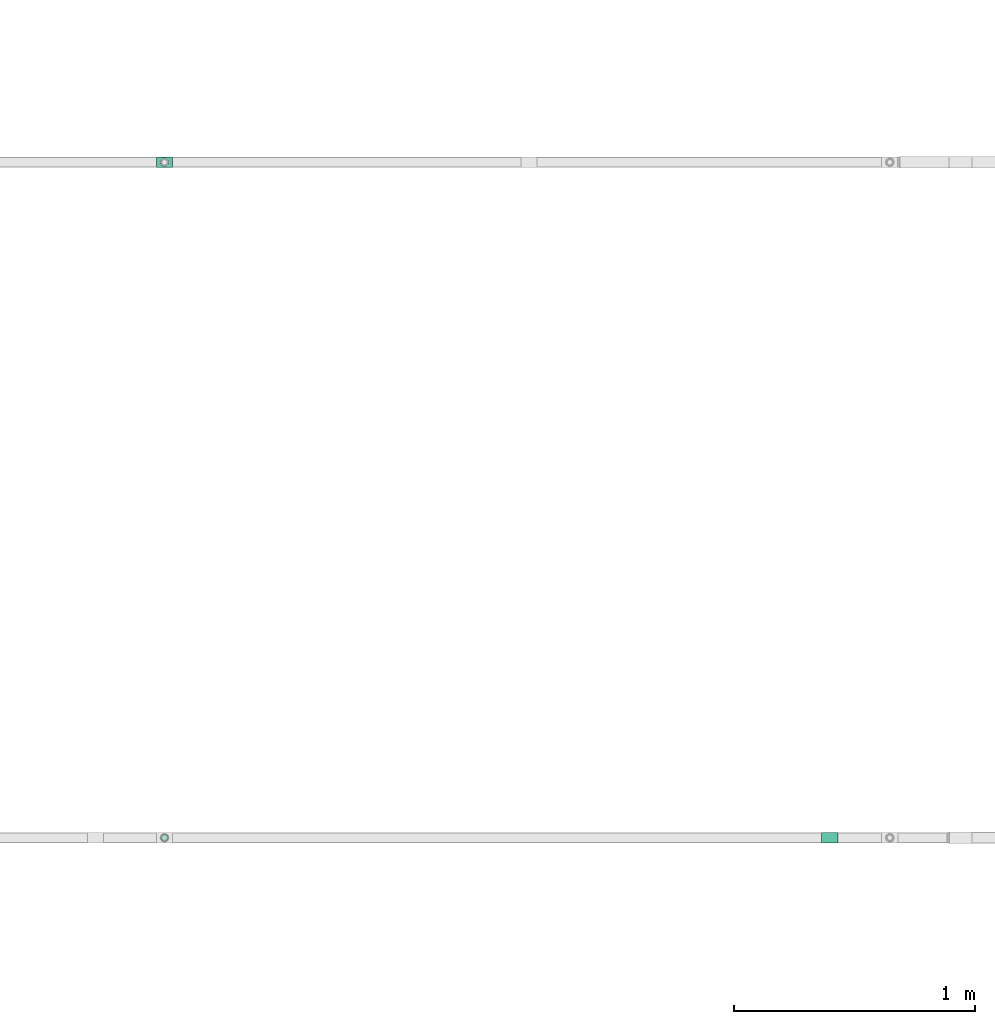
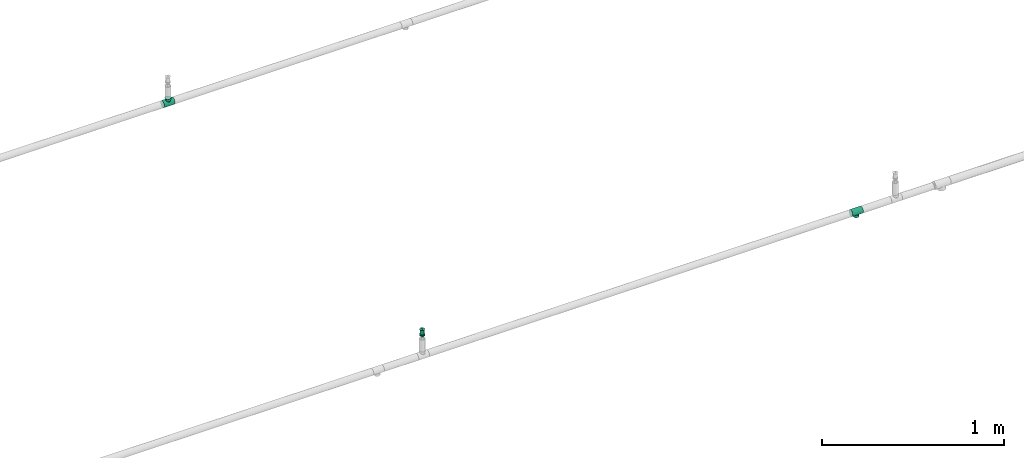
# One storey, part 63 of 94: 2 flow fittings, 1 flow terminal.
"""IFC2X3 building model written with IfcOpenShell, lengths in millimetres."""

from ifc_helpers import new_model, entity, si_unit, converted_unit, derived_unit, direction, frame, origin_with_axes, place, context, subcontext, project, spatial, open_shell, surface_model, source, transform, mapped, type_object, element, save


model = new_model("IFC2X3")

# Units and contexts
model_context = context("Model", 3, precision=0.01, world=frame((0.0, 4.29681676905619e-09, 0.0)), true_north=direction((4.01073788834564e-13, 1.0)))
plan_context = context("Plan", 3, precision=0.01, world=frame((0.0, 4.29681676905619e-09, 0.0)), true_north=direction((4.01073788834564e-13, 1.0)))
body_context = subcontext(model_context, "Body", "Model", "MODEL_VIEW")
ifc_project = project(units=[converted_unit("PLANEANGLEUNIT", "DEGREE", entity("IfcPositiveLengthMeasure", 0.0174532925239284), si_unit("PLANEANGLEUNIT", "RADIAN"), dimensions=[0, 0, 0, 0, 0, 0, 0]), si_unit("AREAUNIT", "SQUARE_METRE"), si_unit("LENGTHUNIT", "METRE", prefix="MILLI"), si_unit("MASSUNIT", "GRAM", prefix="KILO"), si_unit("POWERUNIT", "WATT"), si_unit("PRESSUREUNIT", "PASCAL"), si_unit("FORCEUNIT", "NEWTON", prefix="KILO"), si_unit("ELECTRICCURRENTUNIT", "AMPERE"), si_unit("THERMODYNAMICTEMPERATUREUNIT", "DEGREE_CELSIUS"), si_unit("TIMEUNIT", "SECOND"), si_unit("VOLUMEUNIT", "CUBIC_METRE"), derived_unit("LINEARVELOCITYUNIT", [(si_unit("LENGTHUNIT", "METRE"), 1), (si_unit("TIMEUNIT", "SECOND"), -1)]), derived_unit("VOLUMETRICFLOWRATEUNIT", [(si_unit("VOLUMEUNIT", "CUBIC_METRE"), 1), (si_unit("TIMEUNIT", "SECOND"), -1)]), derived_unit("THERMALTRANSMITTANCEUNIT", [(si_unit("POWERUNIT", "WATT"), 1), (si_unit("THERMODYNAMICTEMPERATUREUNIT", "KELVIN"), -1), (si_unit("AREAUNIT", "SQUARE_METRE"), -1)])], contexts=[model_context, plan_context])

# Site, building, storey
site_placement = place(None, frame((0.0, -4.29681676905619e-09, 0.0), z_axis=(0.0, 0.0, 1.0), x_axis=(1.0, 0.0, 0.0)))
site = spatial("IfcSite", under=ifc_project, at=site_placement, CompositionType="ELEMENT")
building_placement = place(site_placement, frame((0.0, 4.29681676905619e-09, 0.0), z_axis=(0.0, 0.0, 1.0), x_axis=(1.0, 0.0, 0.0)))
building = spatial("IfcBuilding", under=site, at=building_placement, Name="mc-building", CompositionType="ELEMENT")
storey_placement = place(building_placement, frame((0.0, 0.0, 200300.0), z_axis=(0.0, 0.0, 1.0), x_axis=(1.0, 0.0, 0.0)))
storey = spatial("IfcBuildingStorey", under=building, at=storey_placement, Name="Nivå C", CompositionType="ELEMENT", Elevation=200300.0)

# Flow fittings
pipe_fitting_type = type_object("IfcPipeFittingType", Name="magi_pipe_fe_tee_centric_90_NOR", PredefinedType="JUNCTION")
shared_shape_1 = source(origin_with_axes(), body_context, "Body", "SurfaceModel", [
    surface_model("IfcShellBasedSurfaceModel", [(-33.8, 0.0, -21.2), (-33.8, -5.48696, -20.47763), (-33.8, 5.48696, -20.47763), (-33.8, 10.6, -18.35974), (-33.8, 14.99066, -14.99066), (-33.8, -20.47763, 5.48696), (-33.8, 18.35974, -10.6), (-33.8, 10.6, 18.35974), (-33.8, -14.99066, -14.99066), (-33.8, -18.35974, -10.6), (-33.8, -10.6, -18.35974), (-33.8, -20.47763, -5.48696), (-33.8, -21.2, 0.0), (-33.8, 18.35974, 10.6), (-33.8, 20.47763, -5.48696), (-33.8, 20.47763, 5.48696), (-33.8, 21.2, 0.0), (-33.8, 14.99066, 14.99066), (-33.8, 5.48696, 20.47763), (-33.8, 0.0, 21.2), (-33.8, -18.35974, 10.6), (-33.8, -14.99066, 14.99066), (-33.8, -10.6, 18.35974), (-33.8, -5.48696, 20.47763), (33.8, 5.48696, -20.47763), (33.8, -5.48696, -20.47763), (33.8, 0.0, -21.2), (33.8, 14.99066, -14.99066), (33.8, 10.6, -18.35974), (33.8, 18.35974, -10.6), (33.8, 20.47763, -5.48696), (33.8, -21.2, 0.0), (33.8, -10.6, -18.35974), (33.8, -18.35974, -10.6), (33.8, -14.99066, -14.99066), (33.8, -20.47763, -5.48696), (33.8, -20.47763, 5.48696), (33.8, 21.2, 0.0), (33.8, 20.47763, 5.48696), (33.8, 18.35974, 10.6), (33.8, 10.6, 18.35974), (33.8, 14.99066, 14.99066), (33.8, 0.0, 21.2), (33.8, 5.48696, 20.47763), (33.8, -14.99066, 14.99066), (33.8, -18.35974, 10.6), (33.8, -10.6, 18.35974), (33.8, -5.48696, 20.47763), (16.9, -21.2, 0.0), (15.78624, -20.32327, 6.03364), (12.81343, -18.11115, 11.01935), (8.52479, -15.37862, 14.59239), (3.07939, -13.16482, 16.61708), (-16.9, -21.2, 0.0), (-15.78686, -20.32375, 6.032), (-8.52604, -15.37932, 14.59166), (-3.0848, -13.16609, 16.61608), (-12.81602, -18.11299, 11.01634), (3.07939, -13.16482, -16.61708), (12.81343, -18.11115, -11.01935), (8.52479, -15.37862, -14.59239), (15.78624, -20.32327, -6.03364), (-3.0848, -13.16609, -16.61608), (-8.52604, -15.37932, -14.59166), (-12.81602, -18.11299, -11.01634), (-15.78686, -20.32375, -6.032), (4.37404, -31.8, -16.32415), (-16.9, -31.8, 0.0), (0.0, -31.8, -16.9), (14.63583, -31.8, -8.45), (8.45, -31.8, -14.63583), (16.32415, -31.8, -4.37404), (11.9501, -31.8, -11.9501), (-11.9501, -31.8, -11.9501), (-8.45, -31.8, -14.63583), (-4.37404, -31.8, -16.32415), (-14.63583, -31.8, -8.45), (-16.32415, -31.8, -4.37404), (16.9, -31.8, 0.0), (8.45, -31.8, 14.63583), (16.32415, -31.8, 4.37404), (14.63583, -31.8, 8.45), (-8.45, -31.8, 14.63583), (11.9501, -31.8, 11.9501), (4.37404, -31.8, 16.32415), (-16.32415, -31.8, 4.37404), (-11.9501, -31.8, 11.9501), (-14.63583, -31.8, 8.45), (0.0, -31.8, 16.9), (-4.37404, -31.8, 16.32415), (-16.34343, -20.76188, 3.016), (16.34312, -20.76163, 3.01682), (-0.00271, -13.16546, 16.61658), (16.34312, -20.76163, -3.01682), (-0.00271, -13.16546, -16.61658), (-16.34343, -20.76188, -3.016)], [open_shell([[[0, 1, 2]], [[3, 2, 4]], [[5, 2, 1]], [[4, 2, 6]], [[6, 2, 7]], [[8, 9, 10]], [[1, 10, 9]], [[9, 11, 1]], [[12, 1, 11]], [[5, 1, 12]], [[13, 14, 6]], [[13, 15, 16]], [[6, 7, 13]], [[5, 7, 2]], [[17, 13, 7]], [[18, 7, 19]], [[20, 21, 5]], [[22, 5, 21]], [[23, 19, 22]], [[7, 5, 22]], [[22, 19, 7]], [[16, 14, 13]], [[24, 25, 26]], [[27, 24, 28]], [[29, 30, 24]], [[29, 24, 27]], [[31, 24, 30]], [[32, 33, 34]], [[33, 32, 25]], [[33, 31, 35]], [[31, 33, 25]], [[25, 24, 31]], [[30, 36, 31]], [[37, 38, 39]], [[37, 39, 40]], [[37, 40, 36]], [[40, 39, 41]], [[42, 40, 43]], [[36, 44, 45]], [[44, 36, 46]], [[46, 42, 47]], [[46, 36, 40]], [[40, 42, 46]], [[37, 36, 30]], [[31, 36, 48]], [[49, 48, 36]], [[36, 45, 49]], [[45, 44, 50]], [[51, 50, 44]], [[52, 51, 44]], [[44, 46, 52]], [[45, 50, 49]], [[53, 54, 5]], [[5, 12, 53]], [[54, 20, 5]], [[55, 56, 21]], [[20, 57, 21]], [[57, 20, 54]], [[21, 57, 55]], [[56, 22, 21]], [[52, 22, 56]], [[19, 47, 42]], [[23, 46, 47]], [[18, 42, 43]], [[39, 38, 15]], [[17, 40, 41]], [[13, 41, 39]], [[43, 40, 7]], [[16, 38, 37]], [[22, 46, 23]], [[23, 47, 19]], [[18, 19, 42]], [[43, 7, 18]], [[7, 40, 17]], [[13, 17, 41]], [[15, 13, 39]], [[38, 16, 15]], [[46, 22, 52]], [[6, 30, 29]], [[14, 37, 30]], [[4, 29, 27]], [[26, 25, 1]], [[2, 28, 24]], [[0, 24, 26]], [[27, 28, 3]], [[10, 25, 32]], [[16, 37, 14]], [[14, 30, 6]], [[4, 6, 29]], [[27, 3, 4]], [[3, 28, 2]], [[0, 2, 24]], [[1, 0, 26]], [[25, 10, 1]], [[32, 58, 10]], [[34, 59, 60]], [[59, 34, 33]], [[60, 58, 34]], [[34, 58, 32]], [[35, 31, 48]], [[35, 61, 33]], [[61, 35, 48]], [[33, 61, 59]], [[62, 63, 8]], [[8, 64, 9]], [[64, 8, 63]], [[62, 8, 10]], [[65, 53, 11]], [[65, 11, 9]], [[11, 53, 12]], [[65, 9, 64]], [[58, 62, 10]], [[66, 67, 68]], [[69, 66, 70]], [[69, 71, 66]], [[69, 70, 72]], [[67, 66, 71]], [[68, 73, 74]], [[74, 75, 68]], [[76, 67, 77]], [[73, 68, 76]], [[67, 76, 68]], [[71, 78, 67]], [[79, 78, 80]], [[79, 80, 81]], [[82, 67, 79]], [[79, 81, 83]], [[82, 79, 84]], [[85, 86, 87]], [[86, 85, 82]], [[82, 88, 89]], [[85, 67, 82]], [[84, 88, 82]], [[79, 67, 78]], [[85, 90, 67]], [[57, 87, 86]], [[85, 87, 54]], [[86, 82, 55]], [[85, 54, 90]], [[90, 53, 67]], [[54, 87, 57]], [[91, 49, 80]], [[55, 89, 56]], [[55, 57, 86]], [[88, 52, 92]], [[55, 82, 89]], [[52, 88, 84]], [[79, 51, 84]], [[50, 83, 81]], [[83, 51, 79]], [[81, 80, 49]], [[83, 50, 51]], [[51, 52, 84]], [[78, 91, 80]], [[49, 50, 81]], [[91, 78, 48]], [[88, 56, 89]], [[92, 56, 88]], [[71, 93, 78]], [[59, 69, 72]], [[71, 69, 61]], [[72, 70, 60]], [[93, 48, 78]], [[61, 69, 59]], [[60, 66, 58]], [[60, 59, 72]], [[68, 62, 94]], [[60, 70, 66]], [[95, 67, 53]], [[95, 65, 77]], [[71, 61, 93]], [[75, 62, 68]], [[65, 76, 77]], [[73, 76, 64]], [[68, 58, 66]], [[75, 63, 62]], [[63, 75, 74]], [[74, 73, 63]], [[63, 73, 64]], [[64, 76, 65]], [[67, 95, 77]], [[94, 58, 68]]])]),
])
for number, where, z_axis, x_axis, name in (
    (1, (527497.26879, 416298.62756, 2850.0), (0.0, -1.0, 0.0), (-1.0, 0.0, 0.0), "magi_pipe_fe_tee_centric_90_NOR"),
    (2, (530253.74314, 413500.1625, 2850.0), (0.0, 1.0, 0.0), (-1.0, 0.0, 0.0), "magi_pipe_fe_tee_centric_90_NOR"),
):
    element("IfcFlowFitting", number, at=place(storey_placement, frame(where, z_axis=z_axis, x_axis=x_axis)), inside=storey, type_object=pipe_fitting_type, Name=name, context=body_context, shape_type="MappedRepresentation", body=[
        mapped(shared_shape_1, transform((0.0, 0.0, 0.0), scale=1.0)),
    ])

# Flow terminal
fire_suppression_terminal_type = type_object("IfcFireSuppressionTerminalType", Name="68DGR-STD-STÅENDE", PredefinedType="NOTDEFINED")
shared_shape_2 = source(origin_with_axes(), body_context, "Body", "SurfaceModel", [
    surface_model("IfcShellBasedSurfaceModel", [(12.55704, 3.36465, 21.14766), (13.0, 0.0, 21.14766), (12.55704, -3.36465, 21.14766), (-12.55704, -3.36465, 21.14766), (-11.25833, -6.5, 21.14766), (-11.25833, -6.5, 51.0), (3.36465, -12.55704, 51.0), (3.36465, -12.55704, 21.14766), (6.5, -11.25833, 21.14766), (9.19239, -9.19239, 21.14766), (11.25833, -6.5, 21.14766), (9.19239, -9.19239, 51.0), (6.5, -11.25833, 51.0), (11.25833, -6.5, 51.0), (12.55704, -3.36465, 51.0), (13.0, 0.0, 51.0), (9.19239, 9.19239, 51.0), (11.25833, 6.5, 21.14766), (9.19239, 9.19239, 21.14766), (11.25833, 6.5, 51.0), (12.55704, 3.36465, 51.0), (6.5, 11.25833, 51.0), (6.5, 11.25833, 21.14766), (3.36465, 12.55704, 21.14766), (3.36465, 12.55704, 51.0), (-11.25833, 6.5, 51.0), (-11.25833, 6.5, 21.14766), (-12.55704, 3.36465, 21.14766), (0.0, -2.5, 51.0), (-2.5, 0.0, 51.0), (0.0, 2.5, 51.0), (2.5, 0.0, 51.0), (11.31371, 11.31371, 53.0), (-11.31371, 11.31371, 53.0), (-11.31371, -11.31371, 53.0), (11.31371, -11.31371, 53.0), (1.62635, 1.62635, 51.0), (2.16506, 1.25, 51.0), (1.99186, 1.15, 51.0), (-1.76777, 1.76777, 51.0), (-1.25, 2.16506, 51.0), (-1.62635, 1.62635, 51.0), (1.99186, -1.15, 51.0), (2.16506, -1.25, 51.0), (1.62635, -1.62635, 51.0), (-1.62635, -1.62635, 51.0), (-1.25, -2.16506, 51.0), (-1.76777, -1.76777, 51.0), (0.0, 7.3, 0.0), (1.94114, 7.24444, 0.0), (1.88938, 7.05126, 0.0), (5.16188, 5.16188, 0.0), (6.49519, 3.75, 0.0), (6.32199, 3.65, 0.0), (-5.3033, 5.3033, 0.0), (-3.75, 6.49519, 0.0), (-5.16188, 5.16188, 0.0), (6.32199, -3.65, 0.0), (6.49519, -3.75, 0.0), (5.16188, -5.16188, 0.0), (1.88938, -7.05126, 0.0), (1.94114, -7.24444, 0.0), (0.0, -7.3, 0.0), (-5.16188, -5.16188, 0.0), (-3.75, -6.49519, 0.0), (-5.3033, -5.3033, 0.0), (-3.36465, 12.55704, 51.0), (-6.5, 11.25833, 51.0), (0.0, 13.0, 51.0), (-9.19239, 9.19239, 51.0), (0.0, -13.0, 51.0), (-9.19239, -9.19239, 51.0), (-12.55704, -3.36465, 51.0), (-6.5, -11.25833, 51.0), (-3.36465, -12.55704, 51.0), (-7.5, 0.0, -0.1), (-7.24444, 1.94114, 0.1), (-7.24444, 1.94114, -0.1), (-6.49519, 3.75, 0.1), (-6.49519, 3.75, -0.1), (-3.75, 6.49519, -0.1), (-5.3033, 5.3033, -0.1), (-3.75, 6.49519, 0.1), (-5.3033, 5.3033, 0.1), (-1.94114, 7.24444, -0.1), (-1.94114, 7.24444, 0.1), (-7.5, 0.0, 0.1), (0.0, 7.5, 0.1), (0.0, 7.5, -0.1), (1.94114, 7.24444, 0.1), (1.94114, 7.24444, -0.1), (3.75, 6.49519, 0.1), (3.75, 6.49519, -0.1), (6.49519, 3.75, -0.1), (5.3033, 5.3033, -0.1), (6.49519, 3.75, 0.1), (5.3033, 5.3033, 0.1), (7.24444, 1.94114, -0.1), (7.24444, 1.94114, 0.1), (7.5, 0.0, 0.1), (7.5, 0.0, -0.1), (-7.24444, -1.94114, 0.1), (7.24444, -1.94114, 0.1), (5.3033, -5.3033, 0.1), (6.49519, -3.75, 0.1), (-6.49519, -3.75, 0.1), (0.0, -7.5, 0.1), (1.94114, -7.24444, 0.1), (3.75, -6.49519, 0.1), (-3.75, -6.49519, 0.1), (-1.94114, -7.24444, 0.1), (-5.3033, -5.3033, 0.1), (0.0, -7.5, -0.1), (-6.49519, -3.75, -0.1), (1.94114, -7.24444, -0.1), (3.75, -6.49519, -0.1), (5.3033, -5.3033, -0.1), (7.24444, -1.94114, -0.1), (6.49519, -3.75, -0.1), (-3.75, -6.49519, -0.1), (-5.3033, -5.3033, -0.1), (-1.94114, -7.24444, -0.1), (-7.24444, -1.94114, -0.1), (16.0, 0.0, 53.0), (0.0, -16.0, 53.0), (-16.0, 0.0, 53.0), (0.0, 16.0, 53.0), (0.64705, 2.41481, 57.0), (0.0, 2.5, 57.0), (1.25, 2.16506, 57.0), (-2.5, 0.0, 57.0), (1.76777, 1.76777, 57.0), (2.41481, 0.64705, 57.0), (2.16506, 1.25, 57.0), (-0.64705, 2.41481, 57.0), (-1.25, 2.16506, 57.0), (-1.76777, 1.76777, 57.0), (-2.16506, 1.25, 57.0), (-2.41481, 0.64705, 57.0), (2.5, 0.0, 57.0), (1.76777, -1.76777, 57.0), (2.16506, -1.25, 57.0), (2.41481, -0.64705, 57.0), (-2.41481, -0.64705, 57.0), (0.64705, -2.41481, 57.0), (1.25, -2.16506, 57.0), (0.0, -2.5, 57.0), (-1.76777, -1.76777, 57.0), (-2.16506, -1.25, 57.0), (-1.25, -2.16506, 57.0), (-0.64705, -2.41481, 57.0), (1.15, -1.99186, 51.0), (1.76777, -1.76777, 51.0), (1.25, -2.16506, 51.0), (0.59528, -2.22163, 51.0), (0.0, -2.3, 51.0), (0.64705, -2.41481, 51.0), (2.22163, -0.59528, 51.0), (2.3, 0.0, 51.0), (2.41481, -0.64705, 51.0), (-0.64705, -2.41481, 51.0), (-0.59528, -2.22163, 51.0), (-1.15, -1.99186, 51.0), (-2.16506, -1.25, 51.0), (-1.99186, -1.15, 51.0), (-2.22163, -0.59528, 51.0), (-2.3, 0.0, 51.0), (-2.41481, -0.64705, 51.0), (2.22163, 0.59528, 51.0), (2.41481, 0.64705, 51.0), (1.76777, 1.76777, 51.0), (1.15, 1.99186, 51.0), (1.25, 2.16506, 51.0), (0.59528, 2.22163, 51.0), (0.0, 2.3, 51.0), (0.64705, 2.41481, 51.0), (-1.99186, 1.15, 51.0), (-2.16506, 1.25, 51.0), (-2.41481, 0.64705, 51.0), (-2.22163, 0.59528, 51.0), (-0.64705, 2.41481, 51.0), (-0.59528, 2.22163, 51.0), (-1.15, 1.99186, 51.0), (-2.22163, 0.59528, 56.8), (-1.99186, 1.15, 56.8), (-1.15, 1.99186, 56.8), (-1.62635, 1.62635, 56.8), (-0.59528, 2.22163, 56.8), (-2.3, 0.0, 56.8), (0.0, 2.3, 56.8), (0.59528, 2.22163, 56.8), (1.15, 1.99186, 56.8), (1.99186, 1.15, 56.8), (1.62635, 1.62635, 56.8), (2.22163, 0.59528, 56.8), (2.3, 0.0, 56.8), (2.22163, -0.59528, 56.8), (1.99186, -1.15, 56.8), (1.62635, -1.62635, 56.8), (1.15, -1.99186, 56.8), (0.59528, -2.22163, 56.8), (0.0, -2.3, 56.8), (-1.99186, -1.15, 56.8), (-2.22163, -0.59528, 56.8), (-1.62635, -1.62635, 56.8), (-0.59528, -2.22163, 56.8), (-1.15, -1.99186, 56.8), (8.0, -13.85641, 13.0), (4.1411, -15.45481, 13.0), (0.0, -16.0, 13.0), (-4.1411, -15.45481, 13.0), (15.45481, -4.1411, 13.0), (13.85641, -8.0, 13.0), (11.31371, -11.31371, 13.0), (-16.0, 0.0, 13.0), (-8.0, -13.85641, 13.0), (-11.31371, -11.31371, 13.0), (-13.85641, -8.0, 13.0), (-15.45481, -4.1411, 13.0), (15.45481, 4.1411, 13.0), (4.1411, 15.45481, 13.0), (13.85641, 8.0, 13.0), (8.0, 13.85641, 13.0), (11.31371, 11.31371, 13.0), (-15.45481, 4.1411, 13.0), (-11.31371, 11.31371, 13.0), (-8.0, 13.85641, 13.0), (-13.85641, 8.0, 13.0), (-4.1411, 15.45481, 13.0), (0.0, 16.0, 13.0), (16.0, 0.0, 13.0), (7.05126, 1.88938, 12.8), (1.88938, 7.05126, 12.8), (3.65, 6.32199, 12.8), (6.32199, 3.65, 12.8), (5.16188, 5.16188, 12.8), (7.3, 0.0, 12.8), (0.0, 7.3, 12.8), (-3.65, 6.32199, 12.8), (-1.88938, 7.05126, 12.8), (-5.16188, 5.16188, 12.8), (-7.05126, 1.88938, 12.8), (-6.32199, 3.65, 12.8), (7.05126, -1.88938, 12.8), (0.0, -7.3, 12.8), (6.32199, -3.65, 12.8), (3.65, -6.32199, 12.8), (5.16188, -5.16188, 12.8), (1.88938, -7.05126, 12.8), (-7.3, 0.0, 12.8), (-6.32199, -3.65, 12.8), (-7.05126, -1.88938, 12.8), (-1.88938, -7.05126, 12.8), (-5.16188, -5.16188, 12.8), (-3.65, -6.32199, 12.8), (-7.05126, 1.88938, 0.0), (-7.3, 0.0, 0.0), (-6.32199, 3.65, 0.0), (-3.65, 6.32199, 0.0), (-1.88938, 7.05126, 0.0), (3.65, 6.32199, 0.0), (7.05126, 1.88938, 0.0), (7.3, 0.0, 0.0), (3.75, 6.49519, 13.0), (1.94114, 7.24444, 13.0), (7.5, 0.0, 13.0), (5.3033, 5.3033, 13.0), (7.24444, 1.94114, 13.0), (6.49519, 3.75, 13.0), (-5.3033, 5.3033, 13.0), (-7.24444, -1.94114, 13.0), (-1.94114, 7.24444, 13.0), (-3.75, 6.49519, 13.0), (0.0, 7.5, 13.0), (-6.49519, 3.75, 13.0), (-7.24444, 1.94114, 13.0), (7.24444, -1.94114, 13.0), (5.3033, -5.3033, 13.0), (6.49519, -3.75, 13.0), (-6.49519, -3.75, 13.0), (0.0, -7.5, 13.0), (1.94114, -7.24444, 13.0), (3.75, -6.49519, 13.0), (-7.5, 0.0, 13.0), (-3.75, -6.49519, 13.0), (-1.94114, -7.24444, 13.0), (-5.3033, -5.3033, 13.0), (3.65, -6.32199, 0.0), (5.3033, -5.3033, 0.0), (3.75, -6.49519, 0.0), (0.0, -7.5, 0.0), (7.05126, -1.88938, 0.0), (7.24444, -1.94114, 0.0), (7.5, 0.0, 0.0), (-1.94114, -7.24444, 0.0), (-1.88938, -7.05126, 0.0), (-3.65, -6.32199, 0.0), (-6.49519, -3.75, 0.0), (-6.32199, -3.65, 0.0), (-7.05126, -1.88938, 0.0), (-7.24444, -1.94114, 0.0), (-7.5, 0.0, 0.0), (7.24444, 1.94114, 0.0), (5.3033, 5.3033, 0.0), (3.75, 6.49519, 0.0), (0.0, 7.5, 0.0), (-6.49519, 3.75, 0.0), (-7.24444, 1.94114, 0.0), (-1.94114, 7.24444, 0.0), (-12.55704, 3.36465, 51.0), (-13.0, 0.0, 51.0), (0.0, -13.0, 21.14766), (-3.36465, -12.55704, 21.14766), (-6.5, -11.25833, 21.14766), (-9.19239, -9.19239, 21.14766), (-13.0, 0.0, 21.14766), (-9.19239, 9.19239, 21.14766), (-6.5, 11.25833, 21.14766), (-3.36465, 12.55704, 21.14766), (0.0, 13.0, 21.14766), (11.31371, 11.31371, 19.0), (8.0, 13.85641, 19.0), (4.1411, 15.45481, 19.0), (-8.0, 13.85641, 19.0), (16.0, 0.0, 19.0), (15.45481, 4.1411, 19.0), (13.85641, 8.0, 19.0), (-4.1411, 15.45481, 19.0), (0.0, 16.0, 19.0), (-11.31371, 11.31371, 19.0), (-13.85641, 8.0, 19.0), (-15.45481, 4.1411, 19.0), (15.45481, -4.1411, 19.0), (11.31371, -11.31371, 19.0), (13.85641, -8.0, 19.0), (-16.0, 0.0, 19.0), (0.0, -16.0, 19.0), (4.1411, -15.45481, 19.0), (8.0, -13.85641, 19.0), (-13.85641, -8.0, 19.0), (-11.31371, -11.31371, 19.0), (-15.45481, -4.1411, 19.0), (-8.0, -13.85641, 19.0), (-4.1411, -15.45481, 19.0)], [open_shell([[[0, 1, 2]], [[3, 4, 5]], [[6, 7, 8]], [[9, 10, 11]], [[9, 11, 12]], [[10, 13, 11]], [[14, 13, 2]], [[1, 15, 14]], [[16, 17, 18]], [[0, 19, 20]], [[20, 15, 1]], [[21, 16, 18]], [[22, 23, 24]], [[16, 19, 17]], [[25, 26, 27]], [[28, 29, 30]], [[30, 31, 28]], [[31, 30, 32]], [[33, 30, 29]], [[29, 28, 34]], [[35, 28, 31]], [[36, 37, 38]], [[39, 40, 41]], [[42, 43, 44]], [[45, 46, 47]], [[48, 49, 50]], [[51, 52, 53]], [[54, 55, 56]], [[57, 58, 59]], [[60, 61, 62]], [[63, 64, 65]], [[66, 67, 68]], [[67, 24, 68]], [[69, 25, 67]], [[15, 20, 14]], [[70, 6, 12]], [[5, 71, 72]], [[73, 74, 71]], [[72, 71, 74]], [[75, 76, 77]], [[77, 78, 79]], [[80, 81, 82]], [[83, 81, 79]], [[84, 80, 85]], [[76, 78, 77]], [[75, 86, 76]], [[80, 82, 85]], [[82, 81, 83]], [[79, 78, 83]], [[84, 85, 87]], [[87, 88, 84]], [[88, 89, 90]], [[90, 91, 92]], [[93, 94, 95]], [[96, 94, 92]], [[97, 93, 98]], [[91, 96, 92]], [[90, 89, 91]], [[97, 98, 99]], [[98, 93, 95]], [[94, 96, 95]], [[97, 99, 100]], [[87, 89, 88]], [[91, 89, 99]], [[96, 91, 98]], [[91, 99, 98]], [[95, 96, 98]], [[89, 83, 101]], [[85, 82, 87]], [[83, 87, 82]], [[78, 76, 83]], [[89, 87, 83]], [[76, 101, 83]], [[102, 99, 89]], [[103, 104, 102]], [[89, 105, 103]], [[103, 106, 107]], [[108, 103, 107]], [[106, 103, 105]], [[89, 101, 105]], [[101, 76, 86]], [[109, 110, 111]], [[105, 111, 110]], [[106, 105, 110]], [[103, 102, 89]], [[112, 113, 114]], [[115, 114, 116]], [[117, 118, 116]], [[113, 116, 114]], [[116, 113, 117]], [[119, 120, 121]], [[113, 121, 120]], [[121, 113, 112]], [[113, 122, 117]], [[75, 77, 122]], [[100, 117, 122]], [[100, 81, 97]], [[93, 97, 90]], [[90, 92, 94]], [[93, 90, 94]], [[90, 97, 81]], [[79, 81, 77]], [[77, 81, 122]], [[84, 88, 80]], [[81, 80, 88]], [[81, 88, 90]], [[100, 122, 81]], [[100, 102, 117]], [[117, 104, 118]], [[115, 116, 108]], [[103, 116, 118]], [[114, 115, 107]], [[102, 104, 117]], [[100, 99, 102]], [[115, 108, 107]], [[108, 116, 103]], [[118, 104, 103]], [[114, 107, 106]], [[106, 112, 114]], [[112, 110, 121]], [[121, 109, 119]], [[113, 120, 105]], [[111, 120, 119]], [[122, 113, 101]], [[109, 111, 119]], [[121, 110, 109]], [[122, 101, 86]], [[101, 113, 105]], [[120, 111, 105]], [[122, 86, 75]], [[106, 110, 112]], [[31, 123, 35]], [[35, 124, 28]], [[124, 34, 28]], [[29, 34, 125]], [[33, 32, 126]], [[33, 125, 124]], [[124, 32, 33]], [[124, 35, 123]], [[124, 125, 34]], [[123, 32, 124]], [[29, 125, 33]], [[33, 126, 30]], [[126, 32, 30]], [[31, 32, 123]], [[127, 128, 129]], [[129, 130, 131]], [[132, 131, 130]], [[133, 131, 132]], [[130, 129, 128]], [[134, 135, 128]], [[136, 128, 135]], [[137, 138, 136]], [[128, 136, 130]], [[138, 130, 136]], [[139, 132, 130]], [[140, 141, 142]], [[143, 140, 139]], [[144, 140, 143]], [[145, 140, 144]], [[146, 144, 147]], [[139, 130, 143]], [[143, 148, 144]], [[149, 150, 147]], [[144, 148, 147]], [[146, 147, 150]], [[140, 142, 139]], [[151, 152, 153]], [[154, 151, 153]], [[155, 154, 156]], [[153, 156, 154]], [[28, 155, 156]], [[44, 152, 151]], [[157, 158, 159]], [[31, 159, 158]], [[43, 157, 159]], [[152, 44, 43]], [[157, 43, 42]], [[160, 161, 28]], [[161, 155, 28]], [[162, 161, 160]], [[160, 46, 162]], [[162, 46, 45]], [[47, 163, 164]], [[165, 164, 163]], [[45, 47, 164]], [[166, 165, 167]], [[163, 167, 165]], [[29, 166, 167]], [[168, 169, 31]], [[38, 169, 168]], [[169, 38, 37]], [[170, 37, 36]], [[171, 172, 170]], [[173, 172, 171]], [[174, 175, 173]], [[172, 173, 175]], [[30, 175, 174]], [[170, 36, 171]], [[39, 176, 177]], [[41, 176, 39]], [[178, 177, 176]], [[178, 179, 29]], [[176, 179, 178]], [[179, 166, 29]], [[180, 30, 181]], [[182, 180, 181]], [[182, 41, 40]], [[180, 182, 40]], [[181, 30, 174]], [[31, 158, 168]], [[29, 138, 178]], [[178, 137, 177]], [[40, 39, 135]], [[136, 39, 177]], [[180, 40, 134]], [[138, 137, 178]], [[29, 130, 138]], [[40, 135, 134]], [[135, 39, 136]], [[177, 137, 136]], [[180, 134, 128]], [[128, 30, 180]], [[30, 127, 175]], [[175, 129, 172]], [[37, 170, 133]], [[131, 170, 172]], [[169, 37, 132]], [[129, 131, 172]], [[175, 127, 129]], [[169, 132, 139]], [[132, 37, 133]], [[170, 131, 133]], [[169, 139, 31]], [[128, 127, 30]], [[179, 183, 166]], [[176, 184, 179]], [[185, 41, 182]], [[176, 41, 186]], [[187, 182, 181]], [[179, 184, 183]], [[183, 188, 166]], [[187, 185, 182]], [[186, 41, 185]], [[186, 184, 176]], [[189, 187, 181]], [[181, 174, 189]], [[173, 190, 174]], [[171, 191, 173]], [[192, 36, 38]], [[171, 36, 193]], [[194, 38, 168]], [[171, 193, 191]], [[191, 190, 173]], [[195, 194, 168]], [[192, 38, 194]], [[192, 193, 36]], [[158, 195, 168]], [[174, 190, 189]], [[31, 142, 159]], [[159, 141, 43]], [[153, 152, 145]], [[140, 152, 43]], [[156, 153, 144]], [[142, 141, 159]], [[31, 139, 142]], [[153, 145, 144]], [[145, 152, 140]], [[43, 141, 140]], [[156, 144, 146]], [[146, 28, 156]], [[28, 150, 160]], [[160, 149, 46]], [[163, 47, 148]], [[147, 47, 46]], [[167, 163, 143]], [[149, 147, 46]], [[160, 150, 149]], [[167, 143, 130]], [[143, 163, 148]], [[47, 147, 148]], [[167, 130, 29]], [[146, 150, 28]], [[190, 191, 193]], [[190, 193, 195]], [[194, 195, 193]], [[194, 193, 192]], [[190, 195, 186]], [[189, 185, 187]], [[185, 189, 186]], [[186, 183, 184]], [[186, 189, 190]], [[186, 196, 183]], [[186, 195, 196]], [[196, 197, 198]], [[196, 198, 199]], [[199, 200, 201]], [[199, 201, 196]], [[196, 201, 202]], [[188, 202, 203]], [[183, 202, 188]], [[204, 205, 206]], [[205, 204, 202]], [[201, 205, 202]], [[202, 183, 196]], [[157, 196, 158]], [[42, 197, 157]], [[199, 44, 151]], [[42, 44, 198]], [[200, 151, 154]], [[157, 197, 196]], [[196, 195, 158]], [[200, 199, 151]], [[198, 44, 199]], [[198, 197, 42]], [[201, 200, 154]], [[154, 155, 201]], [[161, 205, 155]], [[162, 206, 161]], [[202, 45, 164]], [[162, 45, 204]], [[203, 164, 165]], [[162, 204, 206]], [[206, 205, 161]], [[188, 203, 165]], [[202, 164, 203]], [[202, 204, 45]], [[166, 188, 165]], [[155, 205, 201]], [[207, 208, 209]], [[207, 209, 210]], [[211, 212, 213]], [[213, 207, 214]], [[211, 213, 214]], [[215, 216, 210]], [[217, 210, 216]], [[217, 218, 210]], [[218, 207, 210]], [[218, 214, 207]], [[214, 219, 211]], [[220, 219, 214]], [[221, 219, 220]], [[220, 222, 223]], [[221, 220, 223]], [[214, 224, 220]], [[225, 226, 227]], [[224, 227, 226]], [[228, 229, 226]], [[220, 224, 226]], [[226, 229, 220]], [[219, 230, 211]], [[231, 232, 233]], [[234, 233, 235]], [[231, 236, 232]], [[231, 233, 234]], [[232, 236, 237]], [[237, 238, 239]], [[238, 237, 240]], [[240, 241, 242]], [[240, 237, 236]], [[236, 241, 240]], [[236, 243, 241]], [[244, 243, 245]], [[246, 245, 247]], [[246, 248, 244]], [[246, 244, 245]], [[243, 244, 249]], [[249, 250, 251]], [[250, 249, 252]], [[253, 252, 254]], [[252, 253, 250]], [[249, 244, 252]], [[243, 249, 241]], [[255, 241, 256]], [[257, 242, 255]], [[238, 56, 258]], [[257, 56, 240]], [[239, 258, 259]], [[255, 242, 241]], [[241, 249, 256]], [[239, 238, 258]], [[240, 56, 238]], [[240, 242, 257]], [[237, 239, 259]], [[259, 48, 237]], [[50, 232, 48]], [[260, 233, 50]], [[234, 51, 53]], [[260, 51, 235]], [[231, 53, 261]], [[260, 235, 233]], [[233, 232, 50]], [[236, 231, 261]], [[234, 53, 231]], [[234, 235, 51]], [[262, 236, 261]], [[48, 232, 237]], [[263, 264, 265]], [[266, 263, 267]], [[263, 265, 267]], [[268, 266, 267]], [[264, 269, 270]], [[271, 272, 273]], [[269, 273, 272]], [[274, 275, 269]], [[264, 273, 269]], [[275, 270, 269]], [[276, 265, 264]], [[277, 278, 276]], [[264, 279, 277]], [[277, 280, 281]], [[282, 277, 281]], [[280, 277, 279]], [[264, 270, 279]], [[270, 275, 283]], [[284, 285, 286]], [[279, 286, 285]], [[280, 279, 285]], [[277, 276, 264]], [[287, 288, 289]], [[60, 287, 289]], [[290, 62, 61]], [[289, 61, 60]], [[59, 288, 287]], [[291, 262, 292]], [[293, 292, 262]], [[58, 291, 292]], [[288, 59, 58]], [[291, 58, 57]], [[294, 295, 290]], [[296, 295, 294]], [[294, 64, 296]], [[64, 63, 296]], [[295, 62, 290]], [[65, 297, 298]], [[299, 298, 297]], [[63, 65, 298]], [[256, 299, 300]], [[297, 300, 299]], [[301, 256, 300]], [[261, 302, 293]], [[53, 302, 261]], [[302, 53, 52]], [[303, 52, 51]], [[260, 304, 303]], [[50, 304, 260]], [[304, 50, 49]], [[305, 49, 48]], [[303, 51, 260]], [[54, 257, 306]], [[56, 257, 54]], [[307, 306, 257]], [[307, 255, 301]], [[257, 255, 307]], [[255, 256, 301]], [[308, 305, 259]], [[258, 308, 259]], [[55, 258, 56]], [[308, 258, 55]], [[259, 305, 48]], [[293, 262, 261]], [[301, 275, 307]], [[307, 274, 306]], [[55, 54, 272]], [[269, 54, 306]], [[308, 55, 271]], [[275, 274, 307]], [[301, 283, 275]], [[55, 272, 271]], [[272, 54, 269]], [[306, 274, 269]], [[308, 271, 273]], [[273, 305, 308]], [[305, 264, 49]], [[49, 263, 304]], [[52, 303, 268]], [[266, 303, 304]], [[302, 52, 267]], [[263, 266, 304]], [[49, 264, 263]], [[302, 267, 265]], [[267, 52, 268]], [[303, 266, 268]], [[302, 265, 293]], [[273, 264, 305]], [[293, 276, 292]], [[292, 278, 58]], [[289, 288, 282]], [[277, 288, 58]], [[61, 289, 281]], [[276, 278, 292]], [[293, 265, 276]], [[289, 282, 281]], [[282, 288, 277]], [[58, 278, 277]], [[61, 281, 280]], [[280, 290, 61]], [[290, 285, 294]], [[294, 284, 64]], [[297, 65, 279]], [[286, 65, 64]], [[300, 297, 270]], [[284, 286, 64]], [[294, 285, 284]], [[300, 270, 283]], [[270, 297, 279]], [[65, 286, 279]], [[300, 283, 301]], [[280, 285, 290]], [[291, 243, 262]], [[57, 245, 291]], [[246, 59, 287]], [[57, 59, 247]], [[248, 287, 60]], [[291, 245, 243]], [[243, 236, 262]], [[248, 246, 287]], [[247, 59, 246]], [[247, 245, 57]], [[244, 248, 60]], [[60, 62, 244]], [[295, 252, 62]], [[296, 254, 295]], [[250, 63, 298]], [[296, 63, 253]], [[251, 298, 299]], [[296, 253, 254]], [[254, 252, 295]], [[249, 251, 299]], [[250, 298, 251]], [[250, 253, 63]], [[256, 249, 299]], [[62, 252, 244]], [[16, 21, 24]], [[20, 16, 24]], [[24, 67, 72]], [[19, 16, 20]], [[24, 72, 20]], [[25, 72, 67]], [[309, 310, 25]], [[11, 13, 14]], [[72, 11, 20]], [[74, 12, 11]], [[12, 74, 70]], [[72, 25, 310]], [[72, 74, 11]], [[11, 14, 20]], [[8, 7, 311]], [[8, 311, 312]], [[2, 10, 9]], [[3, 9, 8]], [[3, 26, 9]], [[313, 314, 312]], [[3, 312, 314]], [[4, 3, 314]], [[3, 8, 312]], [[315, 26, 3]], [[2, 9, 26]], [[0, 2, 26]], [[17, 0, 18]], [[23, 22, 18]], [[0, 23, 18]], [[23, 0, 26]], [[316, 317, 26]], [[26, 315, 27]], [[318, 319, 317]], [[23, 26, 317]], [[23, 317, 319]], [[316, 26, 25]], [[318, 317, 67]], [[69, 317, 316]], [[319, 318, 66]], [[310, 309, 315]], [[27, 315, 309]], [[25, 27, 309]], [[25, 69, 316]], [[317, 69, 67]], [[67, 66, 318]], [[66, 68, 319]], [[22, 21, 18]], [[0, 17, 19]], [[1, 0, 20]], [[68, 24, 23]], [[24, 21, 22]], [[319, 68, 23]], [[1, 14, 2]], [[2, 13, 10]], [[6, 311, 7]], [[6, 8, 12]], [[12, 8, 9]], [[6, 70, 311]], [[313, 312, 74]], [[313, 73, 314]], [[71, 4, 314]], [[315, 3, 72]], [[70, 74, 312]], [[74, 73, 313]], [[73, 71, 314]], [[71, 5, 4]], [[3, 5, 72]], [[72, 310, 315]], [[311, 70, 312]], [[320, 321, 322]], [[320, 322, 323]], [[320, 324, 325]], [[326, 320, 325]], [[324, 320, 323]], [[327, 323, 328]], [[323, 322, 328]], [[329, 330, 323]], [[331, 323, 330]], [[323, 331, 324]], [[331, 332, 324]], [[333, 334, 332]], [[335, 333, 331]], [[336, 337, 338]], [[335, 338, 333]], [[338, 335, 336]], [[339, 340, 341]], [[335, 341, 340]], [[342, 343, 340]], [[335, 340, 343]], [[343, 336, 335]], [[332, 331, 333]], [[214, 331, 224]], [[224, 330, 227]], [[226, 225, 323]], [[329, 225, 227]], [[228, 226, 327]], [[331, 330, 224]], [[214, 335, 331]], [[226, 323, 327]], [[323, 225, 329]], [[227, 330, 329]], [[228, 327, 328]], [[328, 229, 228]], [[229, 322, 220]], [[220, 321, 222]], [[221, 223, 326]], [[320, 223, 222]], [[219, 221, 325]], [[321, 320, 222]], [[220, 322, 321]], [[219, 325, 324]], [[325, 221, 326]], [[223, 320, 326]], [[219, 324, 230]], [[328, 322, 229]], [[230, 332, 211]], [[211, 334, 212]], [[207, 213, 338]], [[333, 213, 212]], [[208, 207, 337]], [[332, 334, 211]], [[230, 324, 332]], [[207, 338, 337]], [[338, 213, 333]], [[212, 334, 333]], [[208, 337, 336]], [[336, 209, 208]], [[209, 343, 210]], [[210, 342, 215]], [[217, 216, 339]], [[340, 216, 215]], [[218, 217, 341]], [[342, 340, 215]], [[210, 343, 342]], [[218, 341, 335]], [[341, 217, 339]], [[216, 340, 339]], [[218, 335, 214]], [[336, 343, 209]]])]),
])
flow_terminal_placement = place(storey_placement, frame((527497.26879, 413500.1625, 2972.0), z_axis=(0.0, 0.0, 1.0), x_axis=(-1.0, 0.0, 0.0)))
element("IfcFlowTerminal", 3, at=flow_terminal_placement, inside=storey, type_object=fire_suppression_terminal_type, Name="68DGR-STD-STÅENDE", context=body_context, shape_type="MappedRepresentation", body=[
    mapped(shared_shape_2, transform((0.0, 0.0, 0.0), scale=1.0)),
])

save(model, "model.ifc")
